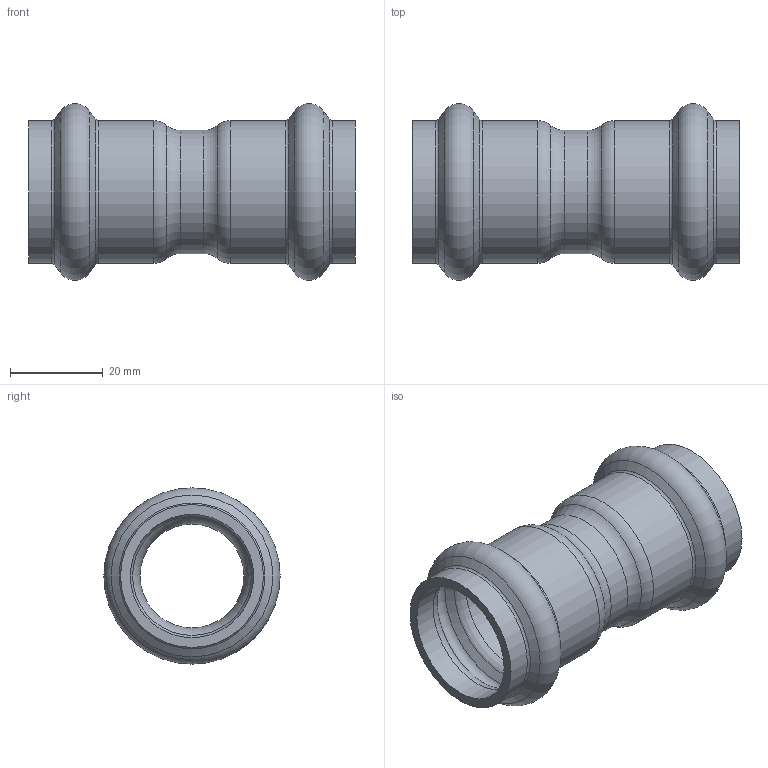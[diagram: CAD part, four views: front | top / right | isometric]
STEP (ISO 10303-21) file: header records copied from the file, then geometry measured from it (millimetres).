
FILE_DESCRIPTION(/* description */ ('VIC COUPLING STYLE P507 STD P X P','CAx-IF Rec.Pracs.---Representation and Presentation of Product Manufacturing Information (PMI)---4.0---2014-10-13'),/* implementation_level */ '2;1');
FILE_NAME(/* name */ 'C:\Users\kkamble\AppData\Roaming\Autodesk\ApplicationPlugins\Back Up\Victaulic_SS-Vic-Press-TP 316_Coupling Standard_Style P507 (VP)\Victaulic_SS-Vic-Press-TP 316_Coupling Standard_Style P507 (VP)_0.75 (20).stp',/* time_stamp */ '2020-08-14T11:54:44+05:00',/* author */ ('cgray'),/* organization */ ('Victaulic'),/* preprocessor_version */ 'ST-DEVELOPER v17.2',/* originating_system */ 'Autodesk Inventor 2019',/* authorisation */ '');
FILE_SCHEMA (('AP242_MANAGED_MODEL_BASED_3D_ENGINEERING_MIM_LF { 1 0 10303 442 1 1 4 }'));
Length unit declared in the file: inch
Products named in the file (1): P507-0.75
Bounding box: 70.61 x 38.12 x 38.12 mm (x, y, z)
Volume: 15119.3 mm3; surface area: 14724.5 mm2
Topology: 1 solids, 1 shells, 40 faces, 150 edges, 112 vertices
Faces by surface type: torus 20, cylinder 10, cone 8, plane 2
Full cylindrical faces by diameter (mm): 22.454 x1, 26.67 x5, 30.886 x4
Entity records: 1910 total; most frequent: DIRECTION 390, CARTESIAN_POINT 320, ORIENTED_EDGE 300, AXIS2_PLACEMENT_3D 186, EDGE_CURVE 150, CIRCLE 132, VERTEX_POINT 112, EDGE_LOOP 42
